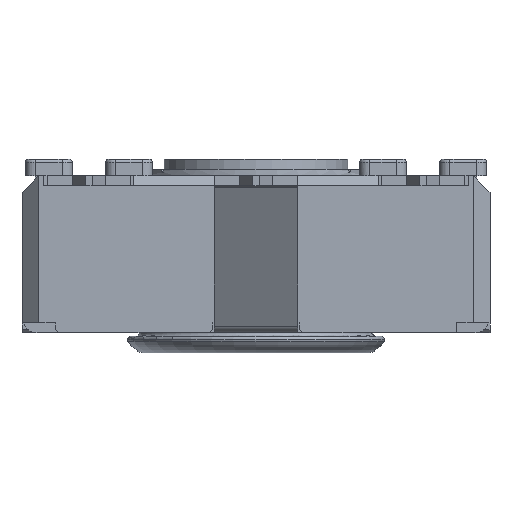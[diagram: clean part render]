
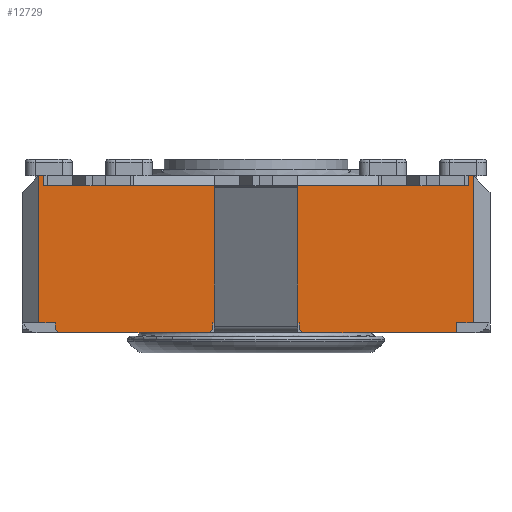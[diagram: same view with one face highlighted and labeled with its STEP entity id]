
A CAD part, front view. The second image highlights one B-rep face of the part: STEP entity #12729.
In plain terms, the highlighted planar face has unit normal (0, -1, 0).
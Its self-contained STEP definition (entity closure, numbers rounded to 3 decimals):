
#410=PLANE('',#13578);
#997=FACE_OUTER_BOUND('',#1664,.T.);
#1664=EDGE_LOOP('',(#10297,#10298,#10299,#10300,#10301,#10302,#10303,#10304,
#10305,#10306,#10307,#10308,#10309,#10310,#10311,#10312,#10313,#10314,#10315,
#10316,#10317,#10318,#10319,#10320,#10321,#10322,#10323));
#2054=LINE('',#17705,#3522);
#2056=LINE('',#17710,#3524);
#2132=LINE('',#17896,#3600);
#2171=LINE('',#18002,#3639);
#2176=LINE('',#18012,#3644);
#2238=LINE('',#18143,#3706);
#2245=LINE('',#18160,#3713);
#2374=LINE('',#18564,#3842);
#2389=LINE('',#18593,#3857);
#2457=LINE('',#18745,#3925);
#2465=LINE('',#18758,#3933);
#2583=LINE('',#19232,#4051);
#2790=LINE('',#19756,#4258);
#2795=LINE('',#19765,#4263);
#2798=LINE('',#19770,#4266);
#2886=LINE('',#20048,#4354);
#2894=LINE('',#20066,#4362);
#2900=LINE('',#20074,#4368);
#2901=LINE('',#20077,#4369);
#2902=LINE('',#20079,#4370);
#2903=LINE('',#20081,#4371);
#2904=LINE('',#20082,#4372);
#2905=LINE('',#20083,#4373);
#2906=LINE('',#20084,#4374);
#2907=LINE('',#20085,#4375);
#2908=LINE('',#20086,#4376);
#2909=LINE('',#20087,#4377);
#3522=VECTOR('',#14192,10.);
#3524=VECTOR('',#14196,10.);
#3600=VECTOR('',#14342,10.);
#3639=VECTOR('',#14423,10.);
#3644=VECTOR('',#14428,10.);
#3706=VECTOR('',#14540,10.);
#3713=VECTOR('',#14553,10.);
#3842=VECTOR('',#14978,10.);
#3857=VECTOR('',#15007,10.);
#3925=VECTOR('',#15157,10.);
#3933=VECTOR('',#15167,10.);
#4051=VECTOR('',#15427,10.);
#4258=VECTOR('',#15776,10.);
#4263=VECTOR('',#15781,10.);
#4266=VECTOR('',#15786,10.);
#4354=VECTOR('',#16012,10.);
#4362=VECTOR('',#16024,10.);
#4368=VECTOR('',#16034,10.);
#4369=VECTOR('',#16037,10.);
#4370=VECTOR('',#16038,10.);
#4371=VECTOR('',#16039,10.);
#4372=VECTOR('',#16040,10.);
#4373=VECTOR('',#16041,10.);
#4374=VECTOR('',#16042,10.);
#4375=VECTOR('',#16043,10.);
#4376=VECTOR('',#16044,10.);
#4377=VECTOR('',#16045,10.);
#5282=VERTEX_POINT('',#17693);
#5286=VERTEX_POINT('',#17703);
#5287=VERTEX_POINT('',#17707);
#5288=VERTEX_POINT('',#17709);
#5301=VERTEX_POINT('',#17741);
#5363=VERTEX_POINT('',#17895);
#5409=VERTEX_POINT('',#18001);
#5413=VERTEX_POINT('',#18009);
#5414=VERTEX_POINT('',#18011);
#5458=VERTEX_POINT('',#18141);
#5465=VERTEX_POINT('',#18159);
#5591=VERTEX_POINT('',#18561);
#5592=VERTEX_POINT('',#18563);
#5598=VERTEX_POINT('',#18590);
#5599=VERTEX_POINT('',#18592);
#5642=VERTEX_POINT('',#18744);
#5646=VERTEX_POINT('',#18756);
#5774=VERTEX_POINT('',#19228);
#5925=VERTEX_POINT('',#19755);
#5929=VERTEX_POINT('',#19763);
#5982=VERTEX_POINT('',#20046);
#5983=VERTEX_POINT('',#20047);
#5990=VERTEX_POINT('',#20064);
#5991=VERTEX_POINT('',#20065);
#5992=VERTEX_POINT('',#20076);
#5993=VERTEX_POINT('',#20078);
#5994=VERTEX_POINT('',#20080);
#6510=EDGE_CURVE('',#5282,#5286,#2054,.T.);
#6512=EDGE_CURVE('',#5288,#5287,#2056,.T.);
#6605=EDGE_CURVE('',#5363,#5301,#2132,.T.);
#6658=EDGE_CURVE('',#5409,#5363,#2171,.T.);
#6663=EDGE_CURVE('',#5414,#5413,#2176,.T.);
#6730=EDGE_CURVE('',#5287,#5458,#2238,.T.);
#6738=EDGE_CURVE('',#5465,#5288,#2245,.T.);
#6941=EDGE_CURVE('',#5592,#5591,#2374,.T.);
#6956=EDGE_CURVE('',#5599,#5598,#2389,.T.);
#7033=EDGE_CURVE('',#5642,#5282,#2457,.T.);
#7041=EDGE_CURVE('',#5286,#5646,#2465,.T.);
#7208=EDGE_CURVE('',#5599,#5774,#2583,.T.);
#7436=EDGE_CURVE('',#5925,#5774,#2790,.T.);
#7441=EDGE_CURVE('',#5301,#5929,#2795,.T.);
#7444=EDGE_CURVE('',#5414,#5591,#2798,.T.);
#7551=EDGE_CURVE('',#5982,#5983,#2886,.T.);
#7559=EDGE_CURVE('',#5990,#5991,#2894,.T.);
#7565=EDGE_CURVE('',#5409,#5982,#2900,.T.);
#7566=EDGE_CURVE('',#5929,#5992,#2901,.T.);
#7567=EDGE_CURVE('',#5993,#5992,#2902,.T.);
#7568=EDGE_CURVE('',#5993,#5994,#2903,.T.);
#7569=EDGE_CURVE('',#5994,#5925,#2904,.T.);
#7570=EDGE_CURVE('',#5598,#5642,#2905,.T.);
#7571=EDGE_CURVE('',#5465,#5646,#2906,.T.);
#7572=EDGE_CURVE('',#5458,#5592,#2907,.T.);
#7573=EDGE_CURVE('',#5413,#5991,#2908,.T.);
#7574=EDGE_CURVE('',#5990,#5983,#2909,.T.);
#10297=ORIENTED_EDGE('',*,*,#7551,.F.);
#10298=ORIENTED_EDGE('',*,*,#7565,.F.);
#10299=ORIENTED_EDGE('',*,*,#6658,.T.);
#10300=ORIENTED_EDGE('',*,*,#6605,.T.);
#10301=ORIENTED_EDGE('',*,*,#7441,.T.);
#10302=ORIENTED_EDGE('',*,*,#7566,.T.);
#10303=ORIENTED_EDGE('',*,*,#7567,.F.);
#10304=ORIENTED_EDGE('',*,*,#7568,.T.);
#10305=ORIENTED_EDGE('',*,*,#7569,.T.);
#10306=ORIENTED_EDGE('',*,*,#7436,.T.);
#10307=ORIENTED_EDGE('',*,*,#7208,.F.);
#10308=ORIENTED_EDGE('',*,*,#6956,.T.);
#10309=ORIENTED_EDGE('',*,*,#7570,.T.);
#10310=ORIENTED_EDGE('',*,*,#7033,.T.);
#10311=ORIENTED_EDGE('',*,*,#6510,.T.);
#10312=ORIENTED_EDGE('',*,*,#7041,.T.);
#10313=ORIENTED_EDGE('',*,*,#7571,.F.);
#10314=ORIENTED_EDGE('',*,*,#6738,.T.);
#10315=ORIENTED_EDGE('',*,*,#6512,.T.);
#10316=ORIENTED_EDGE('',*,*,#6730,.T.);
#10317=ORIENTED_EDGE('',*,*,#7572,.T.);
#10318=ORIENTED_EDGE('',*,*,#6941,.T.);
#10319=ORIENTED_EDGE('',*,*,#7444,.F.);
#10320=ORIENTED_EDGE('',*,*,#6663,.T.);
#10321=ORIENTED_EDGE('',*,*,#7573,.T.);
#10322=ORIENTED_EDGE('',*,*,#7559,.F.);
#10323=ORIENTED_EDGE('',*,*,#7574,.T.);
#12729=ADVANCED_FACE('',(#997),#410,.T.);
#13578=AXIS2_PLACEMENT_3D('',#20075,#16035,#16036);
#14192=DIRECTION('',(-1.,0.,0.));
#14196=DIRECTION('',(-1.,0.,0.));
#14342=DIRECTION('',(1.,0.,0.));
#14423=DIRECTION('',(1.,0.,0.));
#14428=DIRECTION('',(1.,0.,0.));
#14540=DIRECTION('',(-1.,0.,0.));
#14553=DIRECTION('',(-1.,0.,0.));
#14978=DIRECTION('',(-1.,0.,0.));
#15007=DIRECTION('',(-1.,0.,0.));
#15157=DIRECTION('',(-1.,0.,0.));
#15167=DIRECTION('',(-1.,0.,0.));
#15427=DIRECTION('',(0.,0.,-1.));
#15776=DIRECTION('',(1.,0.,0.));
#15781=DIRECTION('',(1.,0.,0.));
#15786=DIRECTION('',(0.,0.,1.));
#16012=DIRECTION('',(-0.707,0.,-0.707));
#16024=DIRECTION('',(-0.707,0.,0.707));
#16034=DIRECTION('',(0.,0.,-1.));
#16035=DIRECTION('center_axis',(0.,-1.,0.));
#16036=DIRECTION('ref_axis',(0.,0.,-1.));
#16037=DIRECTION('',(0.,0.,-1.));
#16038=DIRECTION('',(-0.707,0.,0.707));
#16039=DIRECTION('',(1.,0.,0.));
#16040=DIRECTION('',(0.,0.,1.));
#16041=DIRECTION('',(0.,0.,-1.));
#16042=DIRECTION('',(1.,0.,0.));
#16043=DIRECTION('',(0.,0.,1.));
#16044=DIRECTION('',(0.,0.,-1.));
#16045=DIRECTION('',(1.,0.,0.));
#17693=CARTESIAN_POINT('',(-1.217,-9.898,4.1));
#17703=CARTESIAN_POINT('',(-3.717,-9.898,4.1));
#17705=CARTESIAN_POINT('',(-1.862,-9.898,4.1));
#17707=CARTESIAN_POINT('',(-13.717,-9.898,4.1));
#17709=CARTESIAN_POINT('',(-11.217,-9.898,4.1));
#17710=CARTESIAN_POINT('',(-3.944,-9.898,4.1));
#17741=CARTESIAN_POINT('',(-6.217,-9.898,0.));
#17895=CARTESIAN_POINT('',(-8.717,-9.898,0.));
#17896=CARTESIAN_POINT('',(-14.467,-9.898,0.));
#18001=CARTESIAN_POINT('',(-8.767,-9.898,0.));
#18002=CARTESIAN_POINT('',(-14.467,-9.898,0.));
#18009=CARTESIAN_POINT('',(-13.467,-9.898,0.));
#18011=CARTESIAN_POINT('',(-13.967,-9.898,0.));
#18012=CARTESIAN_POINT('',(-7.245,-9.898,0.));
#18141=CARTESIAN_POINT('',(-13.817,-9.898,4.1));
#18143=CARTESIAN_POINT('',(-3.944,-9.898,4.1));
#18159=CARTESIAN_POINT('',(-11.117,-9.898,4.1));
#18160=CARTESIAN_POINT('',(-3.944,-9.898,4.1));
#18561=CARTESIAN_POINT('',(-13.967,-9.898,4.4));
#18563=CARTESIAN_POINT('',(-13.817,-9.898,4.4));
#18564=CARTESIAN_POINT('',(-14.467,-9.898,4.4));
#18590=CARTESIAN_POINT('',(-1.117,-9.898,4.4));
#18592=CARTESIAN_POINT('',(-0.967,-9.898,4.4));
#18593=CARTESIAN_POINT('',(-14.467,-9.898,4.4));
#18744=CARTESIAN_POINT('',(-1.117,-9.898,4.1));
#18745=CARTESIAN_POINT('',(-1.862,-9.898,4.1));
#18756=CARTESIAN_POINT('',(-3.817,-9.898,4.1));
#18758=CARTESIAN_POINT('',(-1.862,-9.898,4.1));
#19228=CARTESIAN_POINT('',(-0.967,-9.898,0.));
#19232=CARTESIAN_POINT('',(-0.967,-9.898,0.));
#19755=CARTESIAN_POINT('',(-1.467,-9.898,0.));
#19756=CARTESIAN_POINT('',(-0.646,-9.898,0.));
#19763=CARTESIAN_POINT('',(-6.167,-9.898,0.));
#19765=CARTESIAN_POINT('',(-14.467,-9.898,0.));
#19770=CARTESIAN_POINT('',(-13.967,-9.898,0.));
#20046=CARTESIAN_POINT('',(-8.767,-9.898,-0.2));
#20047=CARTESIAN_POINT('',(-8.867,-9.898,-0.3));
#20048=CARTESIAN_POINT('',(-6.667,-9.898,1.9));
#20064=CARTESIAN_POINT('',(-13.367,-9.898,-0.3));
#20065=CARTESIAN_POINT('',(-13.467,-9.898,-0.2));
#20066=CARTESIAN_POINT('',(-10.242,-9.898,-3.425));
#20074=CARTESIAN_POINT('',(-8.767,-9.898,0.));
#20075=CARTESIAN_POINT('Origin',(-0.467,-9.898,0.));
#20076=CARTESIAN_POINT('',(-6.167,-9.898,-0.2));
#20077=CARTESIAN_POINT('',(-6.167,-9.898,0.));
#20078=CARTESIAN_POINT('',(-6.067,-9.898,-0.3));
#20079=CARTESIAN_POINT('',(-4.767,-9.898,-1.6));
#20080=CARTESIAN_POINT('',(-1.467,-9.898,-0.3));
#20081=CARTESIAN_POINT('',(-0.467,-9.898,-0.3));
#20082=CARTESIAN_POINT('',(-1.467,-9.898,-0.15));
#20083=CARTESIAN_POINT('',(-1.117,-9.898,2.2));
#20084=CARTESIAN_POINT('',(-3.967,-9.898,4.1));
#20085=CARTESIAN_POINT('',(-13.817,-9.898,2.2));
#20086=CARTESIAN_POINT('',(-13.467,-9.898,-0.15));
#20087=CARTESIAN_POINT('',(-0.467,-9.898,-0.3));
